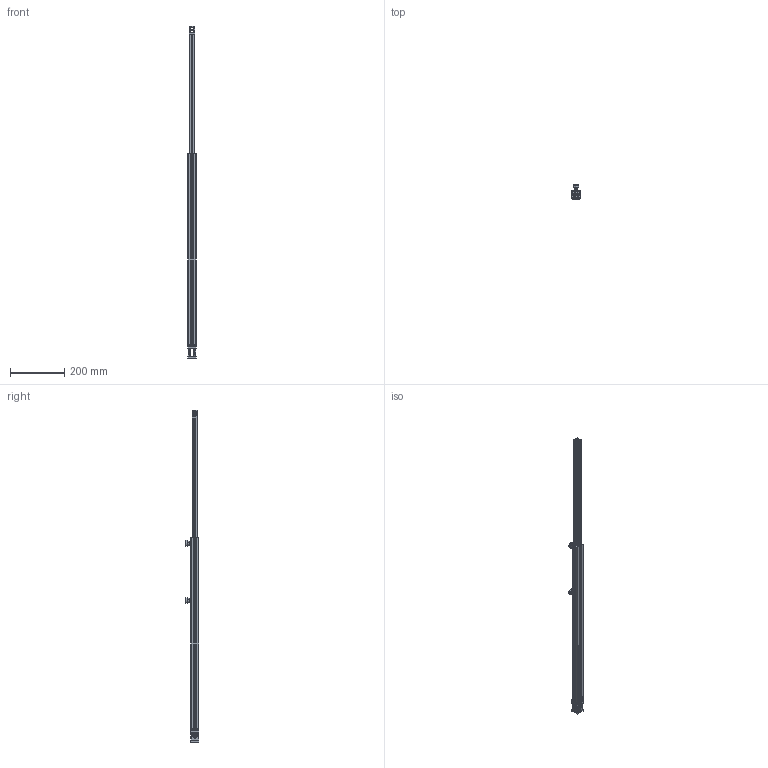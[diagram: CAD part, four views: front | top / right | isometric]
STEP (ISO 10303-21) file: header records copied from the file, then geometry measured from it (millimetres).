
FILE_DESCRIPTION (( 'STEP AP214' ), '1' );
FILE_NAME ('TSB-2030-745(+440).STEP', '2023-12-07T11:05:27', ( '' ), ( '' ), 'SwSTEP 2.0', 'SolidWorks 2022', '' );
FILE_SCHEMA (( 'AUTOMOTIVE_DESIGN' ));
Length unit declared in the file: millimetre
Products named in the file (23): 5079; D21M6H15 Part 2; D21M6H15; 2115-2; TS-3030-2020 Профиль телескопический 30х30 (Анодированный)_L=700 мм; TS-3030-Connector; Пластина для телескопического профиля1; TSB-2030-745(+440); Шайба 6 ГОСТ 11371-78; 2113-2; 2115_Зафиксирован; 2113-1; 2115-3; 2113-3; D21M6H15 Part 1; Винт-пот.-шестигр.-ГОСТ-Р-ИСО-10642-2012-DIN-7991_М5x8; OB-2020 Профиль 20х20 мм, паз 6 мм (Анодированный)_L=690 мм; 2113_Зафиксирован; Гайка M6-6H ГОСТ 5915-70_С резьбой; Винт с внутренним шестигранником ISO 4762_М4х20; Пластина для телескопического профиля2_Без отверстий; 2115-1; Винт полусфера ISO 7380 (для рендеров)_М6х20
Assembly tree (39 placements, depth 3):
  TSB-2030-745(+440)
    TS-3030-2020 Профиль телескопический 30х30 (Анодированный)_L=700 мм
    OB-2020 Профиль 20х20 мм, паз 6 мм (Анодированный)_L=690 мм
    2113_Зафиксирован
      2113-1  x2
      2113-2  x2
      Винт-пот.-шестигр.-ГОСТ-Р-ИСО-10642-2012-DIN-7991_М5x8  x2
    TS-3030-Connector
      Пластина для телескопического профиля1
      Пластина для телескопического профиля2_Без отверстий
      Гайка M6-6H ГОСТ 5915-70_С резьбой
    Винт полусфера ISO 7380 (для рендеров)_М6х20  x2
    Винт с внутренним шестигранником ISO 4762_М4х20  x4
    5079  x2
    D21M6H15  x2
      D21M6H15 Part 1
      D21M6H15 Part 2
    2113-3  x4
    2115_Зафиксирован
      2115-1  x2
      2115-2  x2
      Винт-пот.-шестигр.-ГОСТ-Р-ИСО-10642-2012-DIN-7991_М5x8  x2
      2115-3  x2
    Шайба 6 ГОСТ 11371-78
Bounding box: 30 x 50.4 x 1221.2 mm (x, y, z)
Volume: 451714 mm3; surface area: 345544.8 mm2
Topology: 88 solids, 88 shells, 2666 faces, 6908 edges, 4494 vertices
Faces by surface type: plane 1162, cylinder 1016, bspline 258, cone 118, torus 108, sphere 4
Entity records: 78296 total; most frequent: CARTESIAN_POINT 40692, ORIENTED_EDGE 7276, DIRECTION 6299, EDGE_CURVE 3638, VERTEX_POINT 2383, AXIS2_PLACEMENT_3D 2125, LINE 2049, VECTOR 2049
